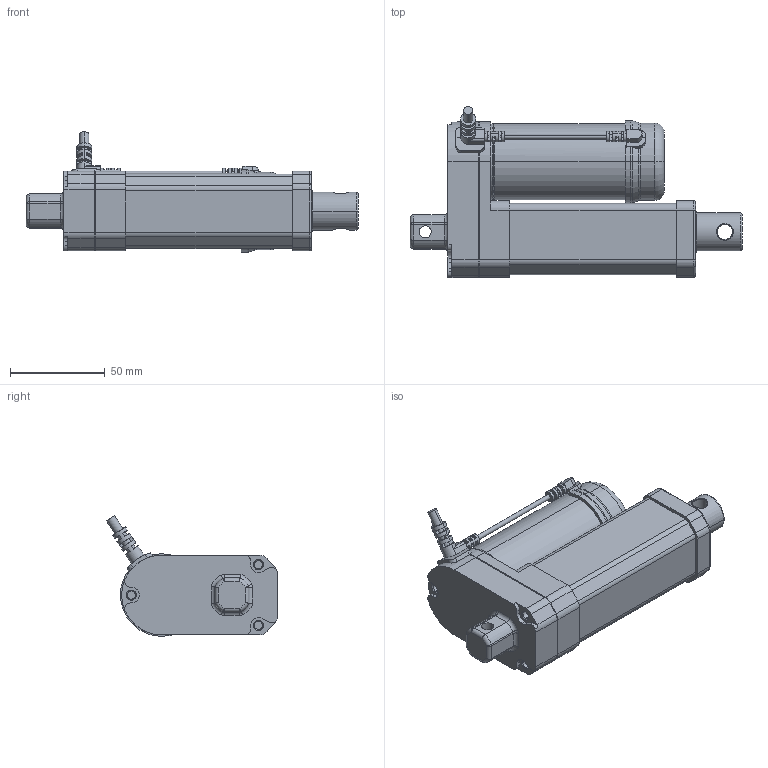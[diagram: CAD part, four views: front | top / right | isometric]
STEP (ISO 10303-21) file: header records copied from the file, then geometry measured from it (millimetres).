
FILE_DESCRIPTION((''),' ');
FILE_NAME('dszy11_050_hs2.stp',' ',('r'),('r'),' ','ACIS 14.0',' ');
FILE_SCHEMA(('automotive_design'));
Length unit declared in the file: inch
Products named in the file (3): DSZY11-HS2-050
Bounding box: 175 x 90.06 x 63.59 mm (x, y, z)
Volume: 237384.1 mm3; surface area: 73362.7 mm2
Topology: 3 solids, 3 shells, 466 faces, 1239 edges, 804 vertices
Faces by surface type: plane 213, cylinder 175, torus 41, cone 23, bspline 10, sphere 4
Entity records: 18855 total; most frequent: CARTESIAN_POINT 3102, DIRECTION 2630, ORIENTED_EDGE 2466, EDGE_CURVE 1233, AXIS2_PLACEMENT_3D 1011, VERTEX_POINT 804, LINE 608, VECTOR 608
